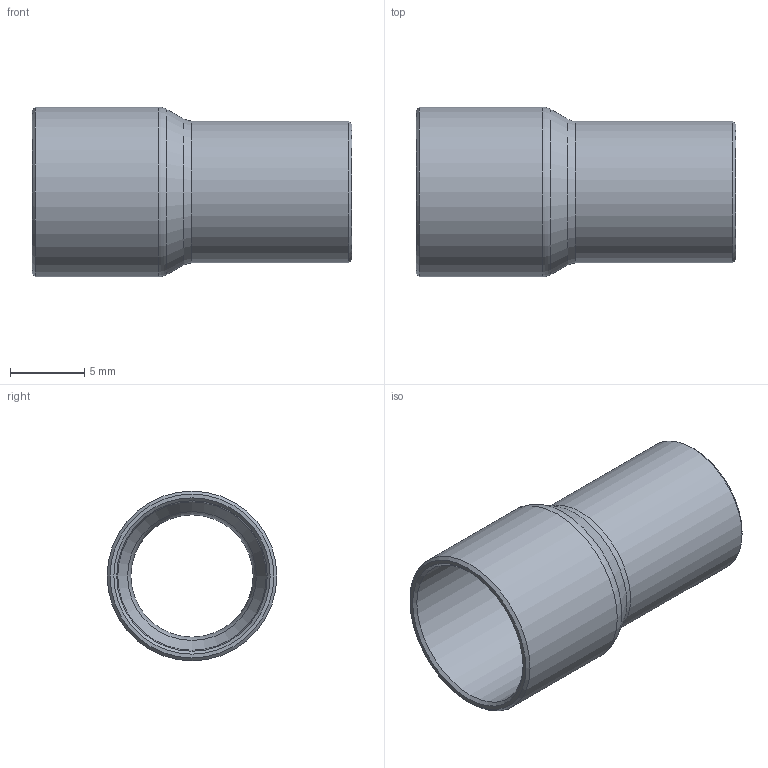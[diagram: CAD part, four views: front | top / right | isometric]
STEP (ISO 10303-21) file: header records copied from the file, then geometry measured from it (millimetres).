
FILE_DESCRIPTION((''),'2;1');
FILE_NAME('Z:\Technik\Management\Bouwmaten + markeringen\z-maattekeningen 3D\29000s\29000s_gem\29243IM3810_gem.stp','2020-08-21T14:40:47',('vdvijverd'),(''),'Autodesk Inventor 2009','Autodesk Inventor 2009','');
FILE_SCHEMA(('AUTOMOTIVE_DESIGN { 1 0 10303 214 1 1 1 1 }'));
Length unit declared in the file: millimetre
Products named in the file (1): 29243IM3810_gem
Bounding box: 21.52 x 11.42 x 11.42 mm (x, y, z)
Volume: 429 mm3; surface area: 1353.3 mm2
Topology: 1 solids, 1 shells, 16 faces, 30 edges, 16 vertices
Faces by surface type: cone 6, cylinder 4, plane 2, torus 2, bspline 2
Full cylindrical faces by diameter (mm): 8.225 x1, 9.525 x1, 10.12 x1, 11.42 x1
Entity records: 434 total; most frequent: CARTESIAN_POINT 137, DIRECTION 62, ORIENTED_EDGE 32, EDGE_LOOP 32, AXIS2_PLACEMENT_3D 31, VERTEX_POINT 16, CIRCLE 16, EDGE_CURVE 16
